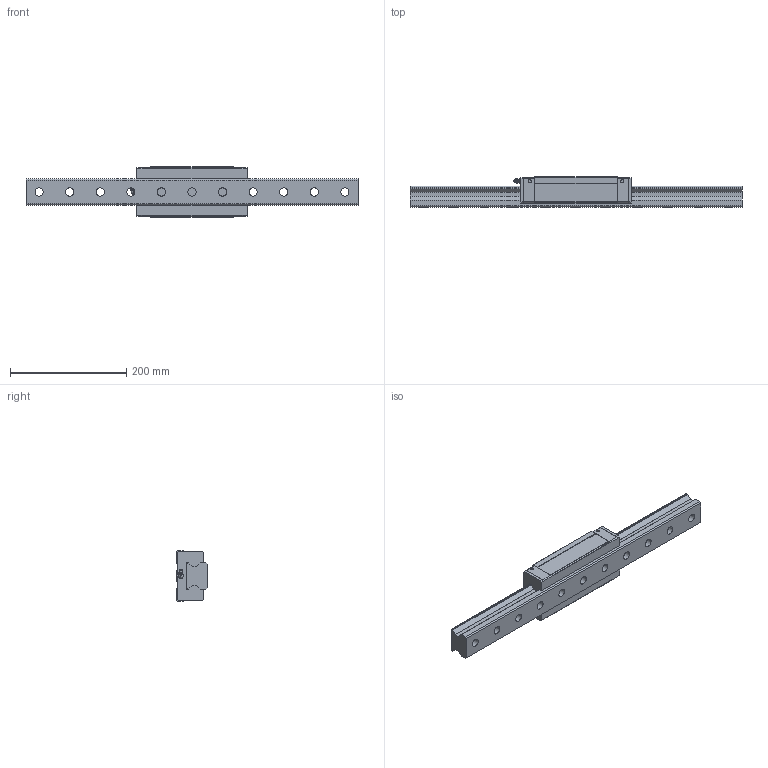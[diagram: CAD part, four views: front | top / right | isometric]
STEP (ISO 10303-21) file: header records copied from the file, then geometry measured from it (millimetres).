
FILE_DESCRIPTION(/* description */ ('STEP AP203'),/* implementation_level */ '2;1');
FILE_NAME(/* name */ 'SRN45LR1SS-570L_G22-5_0_B-M6F_190_0_0_0_1',/* time_stamp */ '2024-05-23T10:57:57+02:00',/* author */ ('License CC BY-ND 4.0'),/* organization */ ('CADENAS'),/* preprocessor_version */ 'ST-DEVELOPER v19.3',/* originating_system */ 'PARTsolutions',/* authorisation */ ' ');
FILE_SCHEMA (('CONFIG_CONTROL_DESIGN'));
Length unit declared in the file: millimetre
Products named in the file (4): SRN45LR1SS-570L_G22-5_0_B-M6F_190_0_0_0_1; SRN45LR57022.5 Track; SRN45LRSSB-M6F1 Slide35-65; B-M6F-SRN_grease_nipple_joint
Assembly tree (3 placements, depth 2):
  SRN45LR1SS-570L_G22-5_0_B-M6F_190_0_0_0_1
    SRN45LR57022.5 Track
    SRN45LRSSB-M6F1 Slide35-65
    B-M6F-SRN_grease_nipple_joint
Bounding box: 570 x 52 x 86 mm (x, y, z)
Volume: 1227756.1 mm3; surface area: 187278 mm2
Topology: 3 solids, 3 shells, 221 faces, 570 edges, 371 vertices
Faces by surface type: plane 129, cylinder 62, cone 25, sphere 3, torus 2
Full cylindrical faces by diameter (mm): 4.917 x2, 5.2 x4, 6 x1, 8 x1, 8.376 x6, 14 x11, 20 x11
Entity records: 6503 total; most frequent: CARTESIAN_POINT 1186, DIRECTION 1074, ORIENTED_EDGE 992, EDGE_CURVE 496, AXIS2_PLACEMENT_3D 377, VERTEX_POINT 365, FACE_BOUND 327, LINE 320
